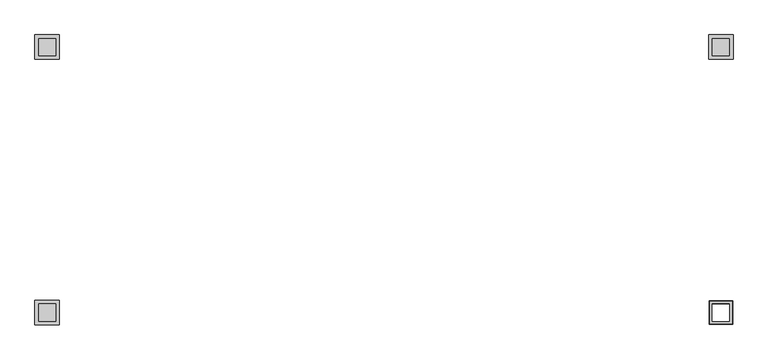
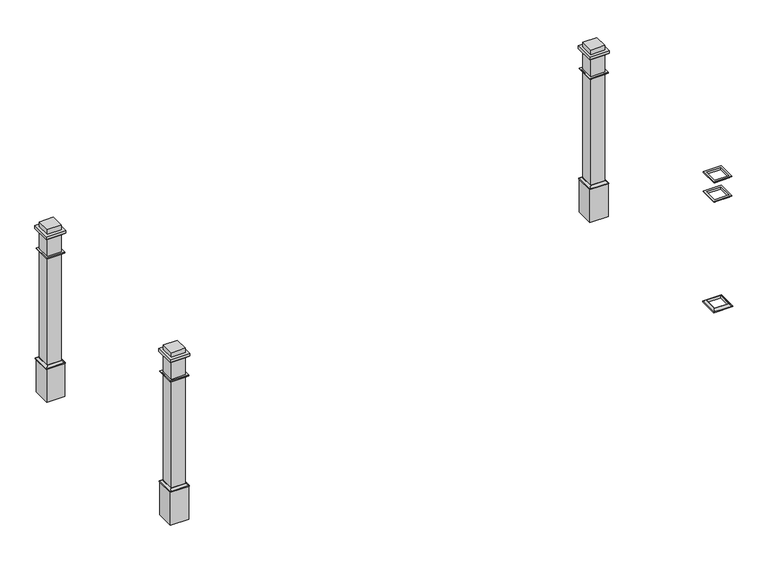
"""IFC4 building model written with IfcOpenShell, lengths in millimetres: railing geometry, Deco Type."""

from ifc_helpers import new_model, si_unit, frame, origin, place, context, project, spatial, polyline, ellipse_curve, outline, extrude, faceted_brep, source, transform, mapped, element, save
from ifc_brep_helpers import plane_surface, revolved_surface, advanced_brep


def railing_7e2956b8(model_context):
    return source(origin(), model_context, "Body", "SolidModel", [
        advanced_brep(
        [(-6672.1906648, -9796.5505549, 3149.6), (-6672.1906648, -9796.5505549, 3171.825), (-6551.5406648, -9796.5505549, 3171.825), (-6551.5406648, -9796.5505549, 3149.6), (-6694.4156648, -9818.7755549, 3155.95), (-6694.4156648, -9818.7755549, 3149.6), (-6529.3156648, -9818.7755549, 3149.6), (-6529.3156648, -9818.7755549, 3155.95), (-6678.5406648, -9802.9005549, 3171.825), (-6545.1906648, -9802.9005549, 3171.825), (-6551.5406648, -9675.9005549, 3171.825), (-6551.5406648, -9675.9005549, 3149.6), (-6529.3156648, -9653.6755549, 3149.6), (-6529.3156648, -9653.6755549, 3155.95), (-6545.1906648, -9669.5505549, 3171.825), (-6672.1906648, -9675.9005549, 3171.825), (-6672.1906648, -9675.9005549, 3149.6), (-6694.4156648, -9653.6755549, 3149.6), (-6694.4156648, -9653.6755549, 3155.95), (-6678.5406648, -9669.5505549, 3171.825)],
        [
            (0, 1),
            (1, 2),
            (2, 3),
            (3, 0),
            (4, 5),
            (5, 6),
            (6, 7),
            (7, 4),
            (8, 4, ellipse_curve(frame((-6694.4156648, -9818.7755549, 3171.825), z_axis=(-0.7071067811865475, 0.7071067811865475, 0.0), x_axis=(0.7071067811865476, 0.7071067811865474, 0.0)), 22.4506403, 15.875)),
            (7, 9, ellipse_curve(frame((-6529.3156648, -9818.7755549, 3171.825), z_axis=(0.7071067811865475, 0.7071067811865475, 0.0), x_axis=(0.7071067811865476, -0.7071067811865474, 0.0)), 22.4506403, 15.875)),
            (9, 8),
            (2, 10),
            (10, 11),
            (11, 3),
            (6, 12),
            (12, 13),
            (13, 7),
            (13, 14, ellipse_curve(frame((-6529.3156648, -9653.6755549, 3171.825), z_axis=(-0.7071067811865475, 0.7071067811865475, 0.0), x_axis=(0.7071067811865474, 0.7071067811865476, 0.0)), 22.4506403, 15.875)),
            (14, 9),
            (10, 15),
            (15, 16),
            (16, 11),
            (12, 17),
            (17, 18),
            (18, 13),
            (18, 19, ellipse_curve(frame((-6694.4156648, -9653.6755549, 3171.825), z_axis=(-0.7071067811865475, -0.7071067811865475, 0.0), x_axis=(-0.7071067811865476, 0.7071067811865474, 0.0)), 22.4506403, 15.875)),
            (19, 14),
            (15, 1),
            (0, 16),
            (5, 17),
            (4, 18),
            (8, 19),
        ],
        [
            plane_surface(frame((-6672.1906648, -9796.5505549, 3171.825), z_axis=(0.0, 1.0, 0.0), x_axis=(1.0, 0.0, 0.0))),
            plane_surface(frame((-6694.4156648, -9818.7755549, 3149.6), z_axis=(0.0, -1.0, 0.0), x_axis=(1.0, 0.0, 0.0))),
            revolved_surface(polyline([(-6513.44066480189, -9802.9005549, 3171.825), (-6710.29066479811, -9802.9005549, 3171.825)]), (-6672.1906648, -9818.7755549, 3171.825), (1.0, 0.0, 0.0)),
            plane_surface(frame((-6551.5406648, -9796.5505549, 3171.825), z_axis=(-1.0, 0.0, 0.0), x_axis=(0.0, 1.0, 0.0))),
            plane_surface(frame((-6529.3156648, -9818.7755549, 3149.6), z_axis=(1.0, 0.0, 0.0), x_axis=(0.0, 1.0, 0.0))),
            revolved_surface(polyline([(-6545.1906648, -9637.80055490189, 3171.825), (-6545.1906648, -9834.65055489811, 3171.825)]), (-6529.3156648, -9796.5505549, 3171.825), (0.0, 1.0, 0.0)),
            plane_surface(frame((-6551.5406648, -9675.9005549, 3171.825), z_axis=(0.0, -1.0, 0.0), x_axis=(-1.0, 0.0, 0.0))),
            plane_surface(frame((-6529.3156648, -9653.6755549, 3149.6), z_axis=(0.0, 1.0, 0.0), x_axis=(-1.0, 0.0, 0.0))),
            revolved_surface(polyline([(-6710.29066479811, -9669.5505549, 3171.825), (-6513.44066480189, -9669.5505549, 3171.825)]), (-6551.5406648, -9653.6755549, 3171.825), (-1.0, 0.0, 0.0)),
            plane_surface(frame((-6672.1906648, -9675.9005549, 3171.825), z_axis=(1.0, 0.0, 0.0), x_axis=(0.0, -1.0, 0.0))),
            plane_surface(frame((-6672.1906648, -9675.9005549, 3149.6), z_axis=(0.0, 0.0, -1.0), x_axis=(0.0, -1.0, 0.0))),
            plane_surface(frame((-6694.4156648, -9653.6755549, 3149.6), z_axis=(-1.0, 0.0, 0.0), x_axis=(0.0, -1.0, 0.0))),
            revolved_surface(polyline([(-6678.5406648, -9834.65055489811, 3171.825), (-6678.5406648, -9637.80055490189, 3171.825)]), (-6694.4156648, -9675.9005549, 3171.825), (0.0, -1.0, 0.0)),
            plane_surface(frame((-6678.5406648, -9669.5505549, 3171.825), z_axis=(0.0, 0.0, 1.0), x_axis=(0.0, -1.0, 0.0))),
        ],
        [
            (0, [[1, 2, 3, 4]]),
            (1, [[5, 6, 7, 8]]),
            (2, [[9, -8, 10, 11]]),
            (3, [[-3, 12, 13, 14]]),
            (4, [[-7, 15, 16, 17]]),
            (5, [[-10, -17, 18, 19]]),
            (6, [[-13, 20, 21, 22]]),
            (7, [[-16, 23, 24, 25]]),
            (8, [[-18, -25, 26, 27]]),
            (9, [[-21, 28, -1, 29]]),
            (10, [[30, -23, -15, -6], [-14, -22, -29, -4]]),
            (11, [[-24, -30, -5, 31]]),
            (12, [[-26, -31, -9, 32]]),
            (13, [[-19, -27, -32, -11], [-28, -20, -12, -2]]),
        ],
    ),
        advanced_brep(
        [(-6672.1906648, -9796.5505549, 4156.075), (-6672.1906648, -9796.5505549, 4175.125), (-6551.5406648, -9796.5505549, 4175.125), (-6551.5406648, -9796.5505549, 4156.075), (-6691.2406648, -9815.6005549, 4168.775), (-6678.5406648, -9802.9005549, 4156.075), (-6545.1906648, -9802.9005549, 4156.075), (-6532.4906648, -9815.6005549, 4168.775), (-6691.2406648, -9815.6005549, 4175.125), (-6532.4906648, -9815.6005549, 4175.125), (-6551.5406648, -9675.9005549, 4175.125), (-6551.5406648, -9675.9005549, 4156.075), (-6545.1906648, -9669.5505549, 4156.075), (-6532.4906648, -9656.8505549, 4168.775), (-6532.4906648, -9656.8505549, 4175.125), (-6672.1906648, -9675.9005549, 4175.125), (-6672.1906648, -9675.9005549, 4156.075), (-6678.5406648, -9669.5505549, 4156.075), (-6691.2406648, -9656.8505549, 4168.775), (-6691.2406648, -9656.8505549, 4175.125)],
        [
            (0, 1),
            (1, 2),
            (2, 3),
            (3, 0),
            (4, 5, ellipse_curve(frame((-6691.2406648, -9815.6005549, 4156.075), z_axis=(-0.7071067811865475, 0.7071067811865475, 0.0), x_axis=(0.7071067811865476, 0.7071067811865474, 0.0)), 17.9605122, 12.7)),
            (5, 6),
            (6, 7, ellipse_curve(frame((-6532.4906648, -9815.6005549, 4156.075), z_axis=(0.7071067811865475, 0.7071067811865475, 0.0), x_axis=(0.7071067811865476, -0.7071067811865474, 0.0)), 17.9605122, 12.7)),
            (7, 4),
            (8, 4),
            (7, 9),
            (9, 8),
            (2, 10),
            (10, 11),
            (11, 3),
            (6, 12),
            (12, 13, ellipse_curve(frame((-6532.4906648, -9656.8505549, 4156.075), z_axis=(-0.7071067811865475, 0.7071067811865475, 0.0), x_axis=(0.7071067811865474, 0.7071067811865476, 0.0)), 17.9605122, 12.7)),
            (13, 7),
            (13, 14),
            (14, 9),
            (10, 15),
            (15, 16),
            (16, 11),
            (12, 17),
            (17, 18, ellipse_curve(frame((-6691.2406648, -9656.8505549, 4156.075), z_axis=(-0.7071067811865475, -0.7071067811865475, 0.0), x_axis=(-0.7071067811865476, 0.7071067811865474, 0.0)), 17.9605122, 12.7)),
            (18, 13),
            (18, 19),
            (19, 14),
            (19, 8),
            (1, 15),
            (0, 16),
            (5, 17),
            (4, 18),
        ],
        [
            plane_surface(frame((-6672.1906648, -9796.5505549, 4175.125), z_axis=(0.0, 1.0, 0.0), x_axis=(1.0, 0.0, 0.0))),
            revolved_surface(polyline([(-6519.790664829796, -9802.9005549, 4156.075), (-6703.9406647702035, -9802.9005549, 4156.075)]), (-6672.1906648, -9815.6005549, 4156.075), (1.0, 0.0, 0.0)),
            plane_surface(frame((-6691.2406648, -9815.6005549, 4168.775), z_axis=(0.0, -1.0, 0.0), x_axis=(1.0, 0.0, 0.0))),
            plane_surface(frame((-6551.5406648, -9796.5505549, 4175.125), z_axis=(-1.0, 0.0, 0.0), x_axis=(0.0, 1.0, 0.0))),
            revolved_surface(polyline([(-6545.1906647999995, -9644.150554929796, 4156.075), (-6545.1906647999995, -9828.300554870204, 4156.075)]), (-6532.4906648, -9796.5505549, 4156.075), (0.0, 1.0, 0.0)),
            plane_surface(frame((-6532.4906648, -9815.6005549, 4168.775), z_axis=(1.0, 0.0, 0.0), x_axis=(0.0, 1.0, 0.0))),
            plane_surface(frame((-6551.5406648, -9675.9005549, 4175.125), z_axis=(0.0, -1.0, 0.0), x_axis=(-1.0, 0.0, 0.0))),
            revolved_surface(polyline([(-6703.9406647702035, -9669.5505549, 4156.075), (-6519.790664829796, -9669.5505549, 4156.075)]), (-6551.5406648, -9656.8505549, 4156.075), (-1.0, 0.0, 0.0)),
            plane_surface(frame((-6532.4906648, -9656.8505549, 4168.775), z_axis=(0.0, 1.0, 0.0), x_axis=(-1.0, 0.0, 0.0))),
            plane_surface(frame((-6691.2406648, -9656.8505549, 4175.125), z_axis=(0.0, 0.0, 1.0), x_axis=(0.0, -1.0, 0.0))),
            plane_surface(frame((-6672.1906648, -9675.9005549, 4175.125), z_axis=(1.0, 0.0, 0.0), x_axis=(0.0, -1.0, 0.0))),
            plane_surface(frame((-6672.1906648, -9675.9005549, 4156.075), z_axis=(0.0, 0.0, -1.0), x_axis=(0.0, -1.0, 0.0))),
            revolved_surface(polyline([(-6678.5406648, -9828.300554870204, 4156.075), (-6678.5406648, -9644.150554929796, 4156.075)]), (-6691.2406648, -9675.9005549, 4156.075), (0.0, -1.0, 0.0)),
            plane_surface(frame((-6691.2406648, -9656.8505549, 4168.775), z_axis=(-1.0, 0.0, 0.0), x_axis=(0.0, -1.0, 0.0))),
        ],
        [
            (0, [[1, 2, 3, 4]]),
            (1, [[5, 6, 7, 8]]),
            (2, [[9, -8, 10, 11]]),
            (3, [[-3, 12, 13, 14]]),
            (4, [[-7, 15, 16, 17]]),
            (5, [[-10, -17, 18, 19]]),
            (6, [[-13, 20, 21, 22]]),
            (7, [[-16, 23, 24, 25]]),
            (8, [[-18, -25, 26, 27]]),
            (9, [[-19, -27, 28, -11], [29, -20, -12, -2]]),
            (10, [[-21, -29, -1, 30]]),
            (11, [[31, -23, -15, -6], [-14, -22, -30, -4]]),
            (12, [[-24, -31, -5, 32]]),
            (13, [[-26, -32, -9, -28]]),
        ],
    ),
        faceted_brep([(-6672.1906648, -9796.5505549, 4333.875), (-6672.1906648, -9796.5505549, 4352.925), (-6551.5406648, -9796.5505549, 4352.925), (-6551.5406648, -9796.5505549, 4333.875), (-6678.5406648, -9802.9005549, 4346.575), (-6678.5406648, -9802.9005549, 4333.875), (-6545.1906648, -9802.9005549, 4333.875), (-6545.1906648, -9802.9005549, 4346.575), (-6691.2406648, -9815.6005549, 4352.925), (-6691.2406648, -9815.6005549, 4346.575), (-6532.4906648, -9815.6005549, 4346.575), (-6532.4906648, -9815.6005549, 4352.925), (-6551.5406648, -9675.9005549, 4352.925), (-6551.5406648, -9675.9005549, 4333.875), (-6545.1906648, -9669.5505549, 4333.875), (-6545.1906648, -9669.5505549, 4346.575), (-6532.4906648, -9656.8505549, 4346.575), (-6532.4906648, -9656.8505549, 4352.925), (-6672.1906648, -9675.9005549, 4352.925), (-6672.1906648, -9675.9005549, 4333.875), (-6678.5406648, -9669.5505549, 4333.875), (-6678.5406648, -9669.5505549, 4346.575), (-6691.2406648, -9656.8505549, 4346.575), (-6691.2406648, -9656.8505549, 4352.925)], [[[0, 1, 2, 3]], [[4, 5, 6, 7]], [[8, 9, 10, 11]], [[3, 2, 12, 13]], [[7, 6, 14, 15]], [[11, 10, 16, 17]], [[13, 12, 18, 19]], [[15, 14, 20, 21]], [[17, 16, 22, 23]], [[19, 18, 1, 0]], [[5, 20, 14, 6], [3, 13, 19, 0]], [[21, 20, 5, 4]], [[9, 22, 16, 10], [7, 15, 21, 4]], [[23, 22, 9, 8]], [[11, 17, 23, 8], [1, 18, 12, 2]]]),
        extrude(outline(polyline([(-11275.1469148, -9656.8505549), (-11275.1469148, -9815.6005549), (-11433.8969148, -9815.6005549), (-11433.8969148, -9656.8505549), (-11275.1469148, -9656.8505549)])), frame((0.0, 0.0, 2844.8), z_axis=(0.0, 0.0, 1.0), x_axis=(1.0, 0.0, 0.0)), (0.0, 0.0, 1.0), 304.8),
        extrude(outline(polyline([(-11294.1969148, -9675.9005549), (-11294.1969148, -9796.5505549), (-11414.8469148, -9796.5505549), (-11414.8469148, -9675.9005549), (-11294.1969148, -9675.9005549)])), frame((0.0, 0.0, 3149.6), z_axis=(0.0, 0.0, 1.0), x_axis=(1.0, 0.0, 0.0)), (0.0, 0.0, 1.0), 1270.0),
        extrude(outline(polyline([(-11440.2469148, -9650.5005549), (-11268.7969148, -9650.5005549), (-11268.7969148, -9821.9505549), (-11440.2469148, -9821.9505549), (-11440.2469148, -9650.5005549)]), holes=[polyline([(-11414.8469148, -9796.5505549), (-11294.1969148, -9796.5505549), (-11294.1969148, -9675.9005549), (-11414.8469148, -9675.9005549), (-11414.8469148, -9796.5505549)])]), frame((0.0, 0.0, 4352.925), z_axis=(0.0, 0.0, 1.0), x_axis=(1.0, 0.0, 0.0)), (0.0, 0.0, 1.0), 25.4),
        advanced_brep(
        [(-11414.8469148, -9675.9005549, 3149.6), (-11414.8469148, -9675.9005549, 3171.825), (-11414.8469148, -9796.5505549, 3171.825), (-11414.8469148, -9796.5505549, 3149.6), (-11437.0719148, -9653.6755549, 3155.95), (-11437.0719148, -9653.6755549, 3149.6), (-11437.0719148, -9818.7755549, 3149.6), (-11437.0719148, -9818.7755549, 3155.95), (-11421.1969148, -9669.5505549, 3171.825), (-11421.1969148, -9802.9005549, 3171.825), (-11294.1969148, -9796.5505549, 3171.825), (-11294.1969148, -9796.5505549, 3149.6), (-11271.9719148, -9818.7755549, 3149.6), (-11271.9719148, -9818.7755549, 3155.95), (-11287.8469148, -9802.9005549, 3171.825), (-11294.1969148, -9675.9005549, 3171.825), (-11294.1969148, -9675.9005549, 3149.6), (-11271.9719148, -9653.6755549, 3149.6), (-11271.9719148, -9653.6755549, 3155.95), (-11287.8469148, -9669.5505549, 3171.825)],
        [
            (0, 1),
            (1, 2),
            (2, 3),
            (3, 0),
            (4, 5),
            (5, 6),
            (6, 7),
            (7, 4),
            (8, 4, ellipse_curve(frame((-11437.0719148, -9653.6755549, 3171.825), z_axis=(0.7071067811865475, 0.7071067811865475, 0.0), x_axis=(0.7071067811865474, -0.7071067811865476, 0.0)), 22.4506403, 15.875)),
            (7, 9, ellipse_curve(frame((-11437.0719148, -9818.7755549, 3171.825), z_axis=(0.7071067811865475, -0.7071067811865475, 0.0), x_axis=(-0.7071067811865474, -0.7071067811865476, 0.0)), 22.4506403, 15.875)),
            (9, 8),
            (2, 10),
            (10, 11),
            (11, 3),
            (6, 12),
            (12, 13),
            (13, 7),
            (13, 14, ellipse_curve(frame((-11271.9719148, -9818.7755549, 3171.825), z_axis=(0.7071067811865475, 0.7071067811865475, 0.0), x_axis=(0.7071067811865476, -0.7071067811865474, 0.0)), 22.4506403, 15.875)),
            (14, 9),
            (10, 15),
            (15, 16),
            (16, 11),
            (12, 17),
            (17, 18),
            (18, 13),
            (18, 19, ellipse_curve(frame((-11271.9719148, -9653.6755549, 3171.825), z_axis=(-0.7071067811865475, 0.7071067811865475, 0.0), x_axis=(0.7071067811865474, 0.7071067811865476, 0.0)), 22.4506403, 15.875)),
            (19, 14),
            (15, 1),
            (0, 16),
            (5, 17),
            (4, 18),
            (8, 19),
        ],
        [
            plane_surface(frame((-11414.8469148, -9675.9005549, 3171.825), z_axis=(1.0, 0.0, 0.0), x_axis=(0.0, -1.0, 0.0))),
            plane_surface(frame((-11437.0719148, -9653.6755549, 3149.6), z_axis=(-1.0, 0.0, 0.0), x_axis=(0.0, -1.0, 0.0))),
            revolved_surface(polyline([(-11421.1969148, -9834.65055489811, 3171.825), (-11421.1969148, -9637.80055490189, 3171.825)]), (-11437.0719148, -9675.9005549, 3171.825), (0.0, -1.0, 0.0)),
            plane_surface(frame((-11414.8469148, -9796.5505549, 3171.825), z_axis=(0.0, 1.0, 0.0), x_axis=(1.0, 0.0, 0.0))),
            plane_surface(frame((-11437.0719148, -9818.7755549, 3149.6), z_axis=(0.0, -1.0, 0.0), x_axis=(1.0, 0.0, 0.0))),
            revolved_surface(polyline([(-11256.09691480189, -9802.9005549, 3171.825), (-11452.94691479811, -9802.9005549, 3171.825)]), (-11414.8469148, -9818.7755549, 3171.825), (1.0, 0.0, 0.0)),
            plane_surface(frame((-11294.1969148, -9796.5505549, 3171.825), z_axis=(-1.0, 0.0, 0.0), x_axis=(0.0, 1.0, 0.0))),
            plane_surface(frame((-11271.9719148, -9818.7755549, 3149.6), z_axis=(1.0, 0.0, 0.0), x_axis=(0.0, 1.0, 0.0))),
            revolved_surface(polyline([(-11287.8469148, -9637.80055490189, 3171.825), (-11287.8469148, -9834.65055489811, 3171.825)]), (-11271.9719148, -9796.5505549, 3171.825), (0.0, 1.0, 0.0)),
            plane_surface(frame((-11294.1969148, -9675.9005549, 3171.825), z_axis=(0.0, -1.0, 0.0), x_axis=(-1.0, 0.0, 0.0))),
            plane_surface(frame((-11294.1969148, -9675.9005549, 3149.6), z_axis=(0.0, 0.0, -1.0), x_axis=(-1.0, 0.0, 0.0))),
            plane_surface(frame((-11271.9719148, -9653.6755549, 3149.6), z_axis=(0.0, 1.0, 0.0), x_axis=(-1.0, 0.0, 0.0))),
            revolved_surface(polyline([(-11452.94691479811, -9669.5505549, 3171.825), (-11256.09691480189, -9669.5505549, 3171.825)]), (-11294.1969148, -9653.6755549, 3171.825), (-1.0, 0.0, 0.0)),
            plane_surface(frame((-11287.8469148, -9669.5505549, 3171.825), z_axis=(0.0, 0.0, 1.0), x_axis=(-1.0, 0.0, 0.0))),
        ],
        [
            (0, [[1, 2, 3, 4]]),
            (1, [[5, 6, 7, 8]]),
            (2, [[9, -8, 10, 11]]),
            (3, [[-3, 12, 13, 14]]),
            (4, [[-7, 15, 16, 17]]),
            (5, [[-10, -17, 18, 19]]),
            (6, [[-13, 20, 21, 22]]),
            (7, [[-16, 23, 24, 25]]),
            (8, [[-18, -25, 26, 27]]),
            (9, [[-21, 28, -1, 29]]),
            (10, [[30, -23, -15, -6], [-14, -22, -29, -4]]),
            (11, [[-24, -30, -5, 31]]),
            (12, [[-26, -31, -9, 32]]),
            (13, [[-19, -27, -32, -11], [-28, -20, -12, -2]]),
        ],
    ),
        advanced_brep(
        [(-11414.8469148, -9675.9005549, 4156.075), (-11414.8469148, -9675.9005549, 4175.125), (-11414.8469148, -9796.5505549, 4175.125), (-11414.8469148, -9796.5505549, 4156.075), (-11433.8969148, -9656.8505549, 4168.775), (-11421.1969148, -9669.5505549, 4156.075), (-11421.1969148, -9802.9005549, 4156.075), (-11433.8969148, -9815.6005549, 4168.775), (-11433.8969148, -9656.8505549, 4175.125), (-11433.8969148, -9815.6005549, 4175.125), (-11294.1969148, -9796.5505549, 4175.125), (-11294.1969148, -9796.5505549, 4156.075), (-11287.8469148, -9802.9005549, 4156.075), (-11275.1469148, -9815.6005549, 4168.775), (-11275.1469148, -9815.6005549, 4175.125), (-11294.1969148, -9675.9005549, 4175.125), (-11294.1969148, -9675.9005549, 4156.075), (-11287.8469148, -9669.5505549, 4156.075), (-11275.1469148, -9656.8505549, 4168.775), (-11275.1469148, -9656.8505549, 4175.125)],
        [
            (0, 1),
            (1, 2),
            (2, 3),
            (3, 0),
            (4, 5, ellipse_curve(frame((-11433.8969148, -9656.8505549, 4156.075), z_axis=(0.7071067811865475, 0.7071067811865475, 0.0), x_axis=(0.7071067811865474, -0.7071067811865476, 0.0)), 17.9605122, 12.7)),
            (5, 6),
            (6, 7, ellipse_curve(frame((-11433.8969148, -9815.6005549, 4156.075), z_axis=(0.7071067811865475, -0.7071067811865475, 0.0), x_axis=(-0.7071067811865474, -0.7071067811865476, 0.0)), 17.9605122, 12.7)),
            (7, 4),
            (8, 4),
            (7, 9),
            (9, 8),
            (2, 10),
            (10, 11),
            (11, 3),
            (6, 12),
            (12, 13, ellipse_curve(frame((-11275.1469148, -9815.6005549, 4156.075), z_axis=(0.7071067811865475, 0.7071067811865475, 0.0), x_axis=(0.7071067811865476, -0.7071067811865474, 0.0)), 17.9605122, 12.7)),
            (13, 7),
            (13, 14),
            (14, 9),
            (10, 15),
            (15, 16),
            (16, 11),
            (12, 17),
            (17, 18, ellipse_curve(frame((-11275.1469148, -9656.8505549, 4156.075), z_axis=(-0.7071067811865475, 0.7071067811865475, 0.0), x_axis=(0.7071067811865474, 0.7071067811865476, 0.0)), 17.9605122, 12.7)),
            (18, 13),
            (18, 19),
            (19, 14),
            (19, 8),
            (1, 15),
            (0, 16),
            (5, 17),
            (4, 18),
        ],
        [
            plane_surface(frame((-11414.8469148, -9675.9005549, 4175.125), z_axis=(1.0, 0.0, 0.0), x_axis=(0.0, -1.0, 0.0))),
            revolved_surface(polyline([(-11421.196914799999, -9828.300554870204, 4156.075), (-11421.196914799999, -9644.150554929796, 4156.075)]), (-11433.8969148, -9675.9005549, 4156.075), (0.0, -1.0, 0.0)),
            plane_surface(frame((-11433.8969148, -9656.8505549, 4168.775), z_axis=(-1.0, 0.0, 0.0), x_axis=(0.0, -1.0, 0.0))),
            plane_surface(frame((-11414.8469148, -9796.5505549, 4175.125), z_axis=(0.0, 1.0, 0.0), x_axis=(1.0, 0.0, 0.0))),
            revolved_surface(polyline([(-11262.446914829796, -9802.9005549, 4156.075), (-11446.596914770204, -9802.9005549, 4156.075)]), (-11414.8469148, -9815.6005549, 4156.075), (1.0, 0.0, 0.0)),
            plane_surface(frame((-11433.8969148, -9815.6005549, 4168.775), z_axis=(0.0, -1.0, 0.0), x_axis=(1.0, 0.0, 0.0))),
            plane_surface(frame((-11294.1969148, -9796.5505549, 4175.125), z_axis=(-1.0, 0.0, 0.0), x_axis=(0.0, 1.0, 0.0))),
            revolved_surface(polyline([(-11287.8469148, -9644.150554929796, 4156.075), (-11287.8469148, -9828.300554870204, 4156.075)]), (-11275.1469148, -9796.5505549, 4156.075), (0.0, 1.0, 0.0)),
            plane_surface(frame((-11275.1469148, -9815.6005549, 4168.775), z_axis=(1.0, 0.0, 0.0), x_axis=(0.0, 1.0, 0.0))),
            plane_surface(frame((-11275.1469148, -9656.8505549, 4175.125), z_axis=(0.0, 0.0, 1.0), x_axis=(-1.0, 0.0, 0.0))),
            plane_surface(frame((-11294.1969148, -9675.9005549, 4175.125), z_axis=(0.0, -1.0, 0.0), x_axis=(-1.0, 0.0, 0.0))),
            plane_surface(frame((-11294.1969148, -9675.9005549, 4156.075), z_axis=(0.0, 0.0, -1.0), x_axis=(-1.0, 0.0, 0.0))),
            revolved_surface(polyline([(-11446.596914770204, -9669.5505549, 4156.075), (-11262.446914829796, -9669.5505549, 4156.075)]), (-11294.1969148, -9656.8505549, 4156.075), (-1.0, 0.0, 0.0)),
            plane_surface(frame((-11275.1469148, -9656.8505549, 4168.775), z_axis=(0.0, 1.0, 0.0), x_axis=(-1.0, 0.0, 0.0))),
        ],
        [
            (0, [[1, 2, 3, 4]]),
            (1, [[5, 6, 7, 8]]),
            (2, [[9, -8, 10, 11]]),
            (3, [[-3, 12, 13, 14]]),
            (4, [[-7, 15, 16, 17]]),
            (5, [[-10, -17, 18, 19]]),
            (6, [[-13, 20, 21, 22]]),
            (7, [[-16, 23, 24, 25]]),
            (8, [[-18, -25, 26, 27]]),
            (9, [[-19, -27, 28, -11], [29, -20, -12, -2]]),
            (10, [[-21, -29, -1, 30]]),
            (11, [[31, -23, -15, -6], [-14, -22, -30, -4]]),
            (12, [[-24, -31, -5, 32]]),
            (13, [[-26, -32, -9, -28]]),
        ],
    ),
        faceted_brep([(-11414.8469148, -9675.9005549, 4333.875), (-11414.8469148, -9675.9005549, 4352.925), (-11414.8469148, -9796.5505549, 4352.925), (-11414.8469148, -9796.5505549, 4333.875), (-11421.1969148, -9669.5505549, 4346.575), (-11421.1969148, -9669.5505549, 4333.875), (-11421.1969148, -9802.9005549, 4333.875), (-11421.1969148, -9802.9005549, 4346.575), (-11433.8969148, -9656.8505549, 4352.925), (-11433.8969148, -9656.8505549, 4346.575), (-11433.8969148, -9815.6005549, 4346.575), (-11433.8969148, -9815.6005549, 4352.925), (-11294.1969148, -9796.5505549, 4352.925), (-11294.1969148, -9796.5505549, 4333.875), (-11287.8469148, -9802.9005549, 4333.875), (-11287.8469148, -9802.9005549, 4346.575), (-11275.1469148, -9815.6005549, 4346.575), (-11275.1469148, -9815.6005549, 4352.925), (-11294.1969148, -9675.9005549, 4352.925), (-11294.1969148, -9675.9005549, 4333.875), (-11287.8469148, -9669.5505549, 4333.875), (-11287.8469148, -9669.5505549, 4346.575), (-11275.1469148, -9656.8505549, 4346.575), (-11275.1469148, -9656.8505549, 4352.925)], [[[0, 1, 2, 3]], [[4, 5, 6, 7]], [[8, 9, 10, 11]], [[3, 2, 12, 13]], [[7, 6, 14, 15]], [[11, 10, 16, 17]], [[13, 12, 18, 19]], [[15, 14, 20, 21]], [[17, 16, 22, 23]], [[19, 18, 1, 0]], [[5, 20, 14, 6], [3, 13, 19, 0]], [[21, 20, 5, 4]], [[9, 22, 16, 10], [7, 15, 21, 4]], [[23, 22, 9, 8]], [[11, 17, 23, 8], [1, 18, 12, 2]]]),
        extrude(outline(polyline([(-6691.2406648, -7943.5411799), (-6691.2406648, -7784.7911799), (-6532.4906648, -7784.7911799), (-6532.4906648, -7943.5411799), (-6691.2406648, -7943.5411799)])), frame((0.0, 0.0, 2844.8), z_axis=(0.0, 0.0, 1.0), x_axis=(1.0, 0.0, 0.0)), (0.0, 0.0, 1.0), 304.8),
        extrude(outline(polyline([(-6672.1906648, -7924.4911799), (-6672.1906648, -7803.8411799), (-6551.5406648, -7803.8411799), (-6551.5406648, -7924.4911799), (-6672.1906648, -7924.4911799)])), frame((0.0, 0.0, 3149.6), z_axis=(0.0, 0.0, 1.0), x_axis=(1.0, 0.0, 0.0)), (0.0, 0.0, 1.0), 1270.0),
        extrude(outline(polyline([(-6526.1406648, -7949.8911799), (-6697.5906648, -7949.8911799), (-6697.5906648, -7778.4411799), (-6526.1406648, -7778.4411799), (-6526.1406648, -7949.8911799)]), holes=[polyline([(-6551.5406648, -7803.8411799), (-6672.1906648, -7803.8411799), (-6672.1906648, -7924.4911799), (-6551.5406648, -7924.4911799), (-6551.5406648, -7803.8411799)])]), frame((0.0, 0.0, 4352.925), z_axis=(0.0, 0.0, 1.0), x_axis=(1.0, 0.0, 0.0)), (0.0, 0.0, 1.0), 25.4),
        advanced_brep(
        [(-6551.5406648, -7924.4911799, 3149.6), (-6551.5406648, -7924.4911799, 3171.825), (-6551.5406648, -7803.8411799, 3171.825), (-6551.5406648, -7803.8411799, 3149.6), (-6529.3156648, -7946.7161799, 3155.95), (-6529.3156648, -7946.7161799, 3149.6), (-6529.3156648, -7781.6161799, 3149.6), (-6529.3156648, -7781.6161799, 3155.95), (-6545.1906648, -7930.8411799, 3171.825), (-6545.1906648, -7797.4911799, 3171.825), (-6672.1906648, -7803.8411799, 3171.825), (-6672.1906648, -7803.8411799, 3149.6), (-6694.4156648, -7781.6161799, 3149.6), (-6694.4156648, -7781.6161799, 3155.95), (-6678.5406648, -7797.4911799, 3171.825), (-6672.1906648, -7924.4911799, 3171.825), (-6672.1906648, -7924.4911799, 3149.6), (-6694.4156648, -7946.7161799, 3149.6), (-6694.4156648, -7946.7161799, 3155.95), (-6678.5406648, -7930.8411799, 3171.825)],
        [
            (0, 1),
            (1, 2),
            (2, 3),
            (3, 0),
            (4, 5),
            (5, 6),
            (6, 7),
            (7, 4),
            (8, 4, ellipse_curve(frame((-6529.3156648, -7946.7161799, 3171.825), z_axis=(-0.7071067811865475, -0.7071067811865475, 0.0), x_axis=(-0.7071067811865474, 0.7071067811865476, 0.0)), 22.4506403, 15.875)),
            (7, 9, ellipse_curve(frame((-6529.3156648, -7781.6161799, 3171.825), z_axis=(-0.7071067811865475, 0.7071067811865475, 0.0), x_axis=(0.7071067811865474, 0.7071067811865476, 0.0)), 22.4506403, 15.875)),
            (9, 8),
            (2, 10),
            (10, 11),
            (11, 3),
            (6, 12),
            (12, 13),
            (13, 7),
            (13, 14, ellipse_curve(frame((-6694.4156648, -7781.6161799, 3171.825), z_axis=(-0.7071067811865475, -0.7071067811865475, 0.0), x_axis=(-0.7071067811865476, 0.7071067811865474, 0.0)), 22.4506403, 15.875)),
            (14, 9),
            (10, 15),
            (15, 16),
            (16, 11),
            (12, 17),
            (17, 18),
            (18, 13),
            (18, 19, ellipse_curve(frame((-6694.4156648, -7946.7161799, 3171.825), z_axis=(0.7071067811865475, -0.7071067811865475, 0.0), x_axis=(-0.7071067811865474, -0.7071067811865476, 0.0)), 22.4506403, 15.875)),
            (19, 14),
            (15, 1),
            (0, 16),
            (5, 17),
            (4, 18),
            (8, 19),
        ],
        [
            plane_surface(frame((-6551.5406648, -7924.4911799, 3171.825), z_axis=(-1.0, 0.0, 0.0), x_axis=(0.0, 1.0, 0.0))),
            plane_surface(frame((-6529.3156648, -7946.7161799, 3149.6), z_axis=(1.0, 0.0, 0.0), x_axis=(0.0, 1.0, 0.0))),
            revolved_surface(polyline([(-6545.1906648, -7765.74117990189, 3171.825), (-6545.1906648, -7962.59117989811, 3171.825)]), (-6529.3156648, -7924.4911799, 3171.825), (0.0, 1.0, 0.0)),
            plane_surface(frame((-6551.5406648, -7803.8411799, 3171.825), z_axis=(0.0, -1.0, 0.0), x_axis=(-1.0, 0.0, 0.0))),
            plane_surface(frame((-6529.3156648, -7781.6161799, 3149.6), z_axis=(0.0, 1.0, 0.0), x_axis=(-1.0, 0.0, 0.0))),
            revolved_surface(polyline([(-6710.29066479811, -7797.4911799, 3171.825), (-6513.44066480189, -7797.4911799, 3171.825)]), (-6551.5406648, -7781.6161799, 3171.825), (-1.0, 0.0, 0.0)),
            plane_surface(frame((-6672.1906648, -7803.8411799, 3171.825), z_axis=(1.0, 0.0, 0.0), x_axis=(0.0, -1.0, 0.0))),
            plane_surface(frame((-6694.4156648, -7781.6161799, 3149.6), z_axis=(-1.0, 0.0, 0.0), x_axis=(0.0, -1.0, 0.0))),
            revolved_surface(polyline([(-6678.5406648, -7962.59117989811, 3171.825), (-6678.5406648, -7765.74117990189, 3171.825)]), (-6694.4156648, -7803.8411799, 3171.825), (0.0, -1.0, 0.0)),
            plane_surface(frame((-6672.1906648, -7924.4911799, 3171.825), z_axis=(0.0, 1.0, 0.0), x_axis=(1.0, 0.0, 0.0))),
            plane_surface(frame((-6672.1906648, -7924.4911799, 3149.6), z_axis=(0.0, 0.0, -1.0), x_axis=(1.0, 0.0, 0.0))),
            plane_surface(frame((-6694.4156648, -7946.7161799, 3149.6), z_axis=(0.0, -1.0, 0.0), x_axis=(1.0, 0.0, 0.0))),
            revolved_surface(polyline([(-6513.44066480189, -7930.8411799, 3171.825), (-6710.29066479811, -7930.8411799, 3171.825)]), (-6672.1906648, -7946.7161799, 3171.825), (1.0, 0.0, 0.0)),
            plane_surface(frame((-6678.5406648, -7930.8411799, 3171.825), z_axis=(0.0, 0.0, 1.0), x_axis=(1.0, 0.0, 0.0))),
        ],
        [
            (0, [[1, 2, 3, 4]]),
            (1, [[5, 6, 7, 8]]),
            (2, [[9, -8, 10, 11]]),
            (3, [[-3, 12, 13, 14]]),
            (4, [[-7, 15, 16, 17]]),
            (5, [[-10, -17, 18, 19]]),
            (6, [[-13, 20, 21, 22]]),
            (7, [[-16, 23, 24, 25]]),
            (8, [[-18, -25, 26, 27]]),
            (9, [[-21, 28, -1, 29]]),
            (10, [[30, -23, -15, -6], [-14, -22, -29, -4]]),
            (11, [[-24, -30, -5, 31]]),
            (12, [[-26, -31, -9, 32]]),
            (13, [[-19, -27, -32, -11], [-28, -20, -12, -2]]),
        ],
    ),
        advanced_brep(
        [(-6551.5406648, -7924.4911799, 4156.075), (-6551.5406648, -7924.4911799, 4175.125), (-6551.5406648, -7803.8411799, 4175.125), (-6551.5406648, -7803.8411799, 4156.075), (-6532.4906648, -7943.5411799, 4168.775), (-6545.1906648, -7930.8411799, 4156.075), (-6545.1906648, -7797.4911799, 4156.075), (-6532.4906648, -7784.7911799, 4168.775), (-6532.4906648, -7943.5411799, 4175.125), (-6532.4906648, -7784.7911799, 4175.125), (-6672.1906648, -7803.8411799, 4175.125), (-6672.1906648, -7803.8411799, 4156.075), (-6678.5406648, -7797.4911799, 4156.075), (-6691.2406648, -7784.7911799, 4168.775), (-6691.2406648, -7784.7911799, 4175.125), (-6672.1906648, -7924.4911799, 4175.125), (-6672.1906648, -7924.4911799, 4156.075), (-6678.5406648, -7930.8411799, 4156.075), (-6691.2406648, -7943.5411799, 4168.775), (-6691.2406648, -7943.5411799, 4175.125)],
        [
            (0, 1),
            (1, 2),
            (2, 3),
            (3, 0),
            (4, 5, ellipse_curve(frame((-6532.4906648, -7943.5411799, 4156.075), z_axis=(-0.7071067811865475, -0.7071067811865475, 0.0), x_axis=(-0.7071067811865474, 0.7071067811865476, 0.0)), 17.9605122, 12.7)),
            (5, 6),
            (6, 7, ellipse_curve(frame((-6532.4906648, -7784.7911799, 4156.075), z_axis=(-0.7071067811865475, 0.7071067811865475, 0.0), x_axis=(0.7071067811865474, 0.7071067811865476, 0.0)), 17.9605122, 12.7)),
            (7, 4),
            (8, 4),
            (7, 9),
            (9, 8),
            (2, 10),
            (10, 11),
            (11, 3),
            (6, 12),
            (12, 13, ellipse_curve(frame((-6691.2406648, -7784.7911799, 4156.075), z_axis=(-0.7071067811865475, -0.7071067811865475, 0.0), x_axis=(-0.7071067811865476, 0.7071067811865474, 0.0)), 17.9605122, 12.7)),
            (13, 7),
            (13, 14),
            (14, 9),
            (10, 15),
            (15, 16),
            (16, 11),
            (12, 17),
            (17, 18, ellipse_curve(frame((-6691.2406648, -7943.5411799, 4156.075), z_axis=(0.7071067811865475, -0.7071067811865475, 0.0), x_axis=(-0.7071067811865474, -0.7071067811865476, 0.0)), 17.9605122, 12.7)),
            (18, 13),
            (18, 19),
            (19, 14),
            (19, 8),
            (1, 15),
            (0, 16),
            (5, 17),
            (4, 18),
        ],
        [
            plane_surface(frame((-6551.5406648, -7924.4911799, 4175.125), z_axis=(-1.0, 0.0, 0.0), x_axis=(0.0, 1.0, 0.0))),
            revolved_surface(polyline([(-6545.1906647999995, -7772.091179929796, 4156.075), (-6545.1906647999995, -7956.241179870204, 4156.075)]), (-6532.4906648, -7924.4911799, 4156.075), (0.0, 1.0, 0.0)),
            plane_surface(frame((-6532.4906648, -7943.5411799, 4168.775), z_axis=(1.0, 0.0, 0.0), x_axis=(0.0, 1.0, 0.0))),
            plane_surface(frame((-6551.5406648, -7803.8411799, 4175.125), z_axis=(0.0, -1.0, 0.0), x_axis=(-1.0, 0.0, 0.0))),
            revolved_surface(polyline([(-6703.9406647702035, -7797.4911799, 4156.075), (-6519.790664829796, -7797.4911799, 4156.075)]), (-6551.5406648, -7784.7911799, 4156.075), (-1.0, 0.0, 0.0)),
            plane_surface(frame((-6532.4906648, -7784.7911799, 4168.775), z_axis=(0.0, 1.0, 0.0), x_axis=(-1.0, 0.0, 0.0))),
            plane_surface(frame((-6672.1906648, -7803.8411799, 4175.125), z_axis=(1.0, 0.0, 0.0), x_axis=(0.0, -1.0, 0.0))),
            revolved_surface(polyline([(-6678.5406648, -7956.241179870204, 4156.075), (-6678.5406648, -7772.091179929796, 4156.075)]), (-6691.2406648, -7803.8411799, 4156.075), (0.0, -1.0, 0.0)),
            plane_surface(frame((-6691.2406648, -7784.7911799, 4168.775), z_axis=(-1.0, 0.0, 0.0), x_axis=(0.0, -1.0, 0.0))),
            plane_surface(frame((-6691.2406648, -7943.5411799, 4175.125), z_axis=(0.0, 0.0, 1.0), x_axis=(1.0, 0.0, 0.0))),
            plane_surface(frame((-6672.1906648, -7924.4911799, 4175.125), z_axis=(0.0, 1.0, 0.0), x_axis=(1.0, 0.0, 0.0))),
            plane_surface(frame((-6672.1906648, -7924.4911799, 4156.075), z_axis=(0.0, 0.0, -1.0), x_axis=(1.0, 0.0, 0.0))),
            revolved_surface(polyline([(-6519.790664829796, -7930.8411799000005, 4156.075), (-6703.9406647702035, -7930.8411799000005, 4156.075)]), (-6672.1906648, -7943.5411799, 4156.075), (1.0, 0.0, 0.0)),
            plane_surface(frame((-6691.2406648, -7943.5411799, 4168.775), z_axis=(0.0, -1.0, 0.0), x_axis=(1.0, 0.0, 0.0))),
        ],
        [
            (0, [[1, 2, 3, 4]]),
            (1, [[5, 6, 7, 8]]),
            (2, [[9, -8, 10, 11]]),
            (3, [[-3, 12, 13, 14]]),
            (4, [[-7, 15, 16, 17]]),
            (5, [[-10, -17, 18, 19]]),
            (6, [[-13, 20, 21, 22]]),
            (7, [[-16, 23, 24, 25]]),
            (8, [[-18, -25, 26, 27]]),
            (9, [[-19, -27, 28, -11], [29, -20, -12, -2]]),
            (10, [[-21, -29, -1, 30]]),
            (11, [[31, -23, -15, -6], [-14, -22, -30, -4]]),
            (12, [[-24, -31, -5, 32]]),
            (13, [[-26, -32, -9, -28]]),
        ],
    ),
        faceted_brep([(-6551.5406648, -7924.4911799, 4333.875), (-6551.5406648, -7924.4911799, 4352.925), (-6551.5406648, -7803.8411799, 4352.925), (-6551.5406648, -7803.8411799, 4333.875), (-6545.1906648, -7930.8411799, 4346.575), (-6545.1906648, -7930.8411799, 4333.875), (-6545.1906648, -7797.4911799, 4333.875), (-6545.1906648, -7797.4911799, 4346.575), (-6532.4906648, -7943.5411799, 4352.925), (-6532.4906648, -7943.5411799, 4346.575), (-6532.4906648, -7784.7911799, 4346.575), (-6532.4906648, -7784.7911799, 4352.925), (-6672.1906648, -7803.8411799, 4352.925), (-6672.1906648, -7803.8411799, 4333.875), (-6678.5406648, -7797.4911799, 4333.875), (-6678.5406648, -7797.4911799, 4346.575), (-6691.2406648, -7784.7911799, 4346.575), (-6691.2406648, -7784.7911799, 4352.925), (-6672.1906648, -7924.4911799, 4352.925), (-6672.1906648, -7924.4911799, 4333.875), (-6678.5406648, -7930.8411799, 4333.875), (-6678.5406648, -7930.8411799, 4346.575), (-6691.2406648, -7943.5411799, 4346.575), (-6691.2406648, -7943.5411799, 4352.925)], [[[0, 1, 2, 3]], [[4, 5, 6, 7]], [[8, 9, 10, 11]], [[3, 2, 12, 13]], [[7, 6, 14, 15]], [[11, 10, 16, 17]], [[13, 12, 18, 19]], [[15, 14, 20, 21]], [[17, 16, 22, 23]], [[19, 18, 1, 0]], [[5, 20, 14, 6], [3, 13, 19, 0]], [[21, 20, 5, 4]], [[9, 22, 16, 10], [7, 15, 21, 4]], [[23, 22, 9, 8]], [[11, 17, 23, 8], [1, 18, 12, 2]]]),
        extrude(outline(polyline([(-11275.1469148, -7784.7911799), (-11275.1469148, -7943.5411799), (-11433.8969148, -7943.5411799), (-11433.8969148, -7784.7911799), (-11275.1469148, -7784.7911799)])), frame((0.0, 0.0, 2844.8), z_axis=(0.0, 0.0, 1.0), x_axis=(1.0, 0.0, 0.0)), (0.0, 0.0, 1.0), 304.8),
        extrude(outline(polyline([(-11294.1969148, -7803.8411799), (-11294.1969148, -7924.4911799), (-11414.8469148, -7924.4911799), (-11414.8469148, -7803.8411799), (-11294.1969148, -7803.8411799)])), frame((0.0, 0.0, 3149.6), z_axis=(0.0, 0.0, 1.0), x_axis=(1.0, 0.0, 0.0)), (0.0, 0.0, 1.0), 1270.0),
        extrude(outline(polyline([(-11440.2469148, -7778.4411799), (-11268.7969148, -7778.4411799), (-11268.7969148, -7949.8911799), (-11440.2469148, -7949.8911799), (-11440.2469148, -7778.4411799)]), holes=[polyline([(-11414.8469148, -7924.4911799), (-11294.1969148, -7924.4911799), (-11294.1969148, -7803.8411799), (-11414.8469148, -7803.8411799), (-11414.8469148, -7924.4911799)])]), frame((0.0, 0.0, 4352.925), z_axis=(0.0, 0.0, 1.0), x_axis=(1.0, 0.0, 0.0)), (0.0, 0.0, 1.0), 25.4),
        advanced_brep(
        [(-11414.8469148, -7803.8411799, 3149.6), (-11414.8469148, -7803.8411799, 3171.825), (-11414.8469148, -7924.4911799, 3171.825), (-11414.8469148, -7924.4911799, 3149.6), (-11437.0719148, -7781.6161799, 3155.95), (-11437.0719148, -7781.6161799, 3149.6), (-11437.0719148, -7946.7161799, 3149.6), (-11437.0719148, -7946.7161799, 3155.95), (-11421.1969148, -7797.4911799, 3171.825), (-11421.1969148, -7930.8411799, 3171.825), (-11294.1969148, -7924.4911799, 3171.825), (-11294.1969148, -7924.4911799, 3149.6), (-11271.9719148, -7946.7161799, 3149.6), (-11271.9719148, -7946.7161799, 3155.95), (-11287.8469148, -7930.8411799, 3171.825), (-11294.1969148, -7803.8411799, 3171.825), (-11294.1969148, -7803.8411799, 3149.6), (-11271.9719148, -7781.6161799, 3149.6), (-11271.9719148, -7781.6161799, 3155.95), (-11287.8469148, -7797.4911799, 3171.825)],
        [
            (0, 1),
            (1, 2),
            (2, 3),
            (3, 0),
            (4, 5),
            (5, 6),
            (6, 7),
            (7, 4),
            (8, 4, ellipse_curve(frame((-11437.0719148, -7781.6161799, 3171.825), z_axis=(0.7071067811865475, 0.7071067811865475, 0.0), x_axis=(0.7071067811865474, -0.7071067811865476, 0.0)), 22.4506403, 15.875)),
            (7, 9, ellipse_curve(frame((-11437.0719148, -7946.7161799, 3171.825), z_axis=(0.7071067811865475, -0.7071067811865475, 0.0), x_axis=(-0.7071067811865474, -0.7071067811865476, 0.0)), 22.4506403, 15.875)),
            (9, 8),
            (2, 10),
            (10, 11),
            (11, 3),
            (6, 12),
            (12, 13),
            (13, 7),
            (13, 14, ellipse_curve(frame((-11271.9719148, -7946.7161799, 3171.825), z_axis=(0.7071067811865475, 0.7071067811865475, 0.0), x_axis=(0.7071067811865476, -0.7071067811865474, 0.0)), 22.4506403, 15.875)),
            (14, 9),
            (10, 15),
            (15, 16),
            (16, 11),
            (12, 17),
            (17, 18),
            (18, 13),
            (18, 19, ellipse_curve(frame((-11271.9719148, -7781.6161799, 3171.825), z_axis=(-0.7071067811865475, 0.7071067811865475, 0.0), x_axis=(0.7071067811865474, 0.7071067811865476, 0.0)), 22.4506403, 15.875)),
            (19, 14),
            (15, 1),
            (0, 16),
            (5, 17),
            (4, 18),
            (8, 19),
        ],
        [
            plane_surface(frame((-11414.8469148, -7803.8411799, 3171.825), z_axis=(1.0, 0.0, 0.0), x_axis=(0.0, -1.0, 0.0))),
            plane_surface(frame((-11437.0719148, -7781.6161799, 3149.6), z_axis=(-1.0, 0.0, 0.0), x_axis=(0.0, -1.0, 0.0))),
            revolved_surface(polyline([(-11421.1969148, -7962.59117989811, 3171.825), (-11421.1969148, -7765.74117990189, 3171.825)]), (-11437.0719148, -7803.8411799, 3171.825), (0.0, -1.0, 0.0)),
            plane_surface(frame((-11414.8469148, -7924.4911799, 3171.825), z_axis=(0.0, 1.0, 0.0), x_axis=(1.0, 0.0, 0.0))),
            plane_surface(frame((-11437.0719148, -7946.7161799, 3149.6), z_axis=(0.0, -1.0, 0.0), x_axis=(1.0, 0.0, 0.0))),
            revolved_surface(polyline([(-11256.09691480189, -7930.8411799, 3171.825), (-11452.94691479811, -7930.8411799, 3171.825)]), (-11414.8469148, -7946.7161799, 3171.825), (1.0, 0.0, 0.0)),
            plane_surface(frame((-11294.1969148, -7924.4911799, 3171.825), z_axis=(-1.0, 0.0, 0.0), x_axis=(0.0, 1.0, 0.0))),
            plane_surface(frame((-11271.9719148, -7946.7161799, 3149.6), z_axis=(1.0, 0.0, 0.0), x_axis=(0.0, 1.0, 0.0))),
            revolved_surface(polyline([(-11287.8469148, -7765.74117990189, 3171.825), (-11287.8469148, -7962.59117989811, 3171.825)]), (-11271.9719148, -7924.4911799, 3171.825), (0.0, 1.0, 0.0)),
            plane_surface(frame((-11294.1969148, -7803.8411799, 3171.825), z_axis=(0.0, -1.0, 0.0), x_axis=(-1.0, 0.0, 0.0))),
            plane_surface(frame((-11294.1969148, -7803.8411799, 3149.6), z_axis=(0.0, 0.0, -1.0), x_axis=(-1.0, 0.0, 0.0))),
            plane_surface(frame((-11271.9719148, -7781.6161799, 3149.6), z_axis=(0.0, 1.0, 0.0), x_axis=(-1.0, 0.0, 0.0))),
            revolved_surface(polyline([(-11452.94691479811, -7797.4911799, 3171.825), (-11256.09691480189, -7797.4911799, 3171.825)]), (-11294.1969148, -7781.6161799, 3171.825), (-1.0, 0.0, 0.0)),
            plane_surface(frame((-11287.8469148, -7797.4911799, 3171.825), z_axis=(0.0, 0.0, 1.0), x_axis=(-1.0, 0.0, 0.0))),
        ],
        [
            (0, [[1, 2, 3, 4]]),
            (1, [[5, 6, 7, 8]]),
            (2, [[9, -8, 10, 11]]),
            (3, [[-3, 12, 13, 14]]),
            (4, [[-7, 15, 16, 17]]),
            (5, [[-10, -17, 18, 19]]),
            (6, [[-13, 20, 21, 22]]),
            (7, [[-16, 23, 24, 25]]),
            (8, [[-18, -25, 26, 27]]),
            (9, [[-21, 28, -1, 29]]),
            (10, [[30, -23, -15, -6], [-14, -22, -29, -4]]),
            (11, [[-24, -30, -5, 31]]),
            (12, [[-26, -31, -9, 32]]),
            (13, [[-19, -27, -32, -11], [-28, -20, -12, -2]]),
        ],
    ),
        advanced_brep(
        [(-11414.8469148, -7803.8411799, 4156.075), (-11414.8469148, -7803.8411799, 4175.125), (-11414.8469148, -7924.4911799, 4175.125), (-11414.8469148, -7924.4911799, 4156.075), (-11433.8969148, -7784.7911799, 4168.775), (-11421.1969148, -7797.4911799, 4156.075), (-11421.1969148, -7930.8411799, 4156.075), (-11433.8969148, -7943.5411799, 4168.775), (-11433.8969148, -7784.7911799, 4175.125), (-11433.8969148, -7943.5411799, 4175.125), (-11294.1969148, -7924.4911799, 4175.125), (-11294.1969148, -7924.4911799, 4156.075), (-11287.8469148, -7930.8411799, 4156.075), (-11275.1469148, -7943.5411799, 4168.775), (-11275.1469148, -7943.5411799, 4175.125), (-11294.1969148, -7803.8411799, 4175.125), (-11294.1969148, -7803.8411799, 4156.075), (-11287.8469148, -7797.4911799, 4156.075), (-11275.1469148, -7784.7911799, 4168.775), (-11275.1469148, -7784.7911799, 4175.125)],
        [
            (0, 1),
            (1, 2),
            (2, 3),
            (3, 0),
            (4, 5, ellipse_curve(frame((-11433.8969148, -7784.7911799, 4156.075), z_axis=(0.7071067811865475, 0.7071067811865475, 0.0), x_axis=(0.7071067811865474, -0.7071067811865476, 0.0)), 17.9605122, 12.7)),
            (5, 6),
            (6, 7, ellipse_curve(frame((-11433.8969148, -7943.5411799, 4156.075), z_axis=(0.7071067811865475, -0.7071067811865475, 0.0), x_axis=(-0.7071067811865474, -0.7071067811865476, 0.0)), 17.9605122, 12.7)),
            (7, 4),
            (8, 4),
            (7, 9),
            (9, 8),
            (2, 10),
            (10, 11),
            (11, 3),
            (6, 12),
            (12, 13, ellipse_curve(frame((-11275.1469148, -7943.5411799, 4156.075), z_axis=(0.7071067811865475, 0.7071067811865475, 0.0), x_axis=(0.7071067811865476, -0.7071067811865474, 0.0)), 17.9605122, 12.7)),
            (13, 7),
            (13, 14),
            (14, 9),
            (10, 15),
            (15, 16),
            (16, 11),
            (12, 17),
            (17, 18, ellipse_curve(frame((-11275.1469148, -7784.7911799, 4156.075), z_axis=(-0.7071067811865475, 0.7071067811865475, 0.0), x_axis=(0.7071067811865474, 0.7071067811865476, 0.0)), 17.9605122, 12.7)),
            (18, 13),
            (18, 19),
            (19, 14),
            (19, 8),
            (1, 15),
            (0, 16),
            (5, 17),
            (4, 18),
        ],
        [
            plane_surface(frame((-11414.8469148, -7803.8411799, 4175.125), z_axis=(1.0, 0.0, 0.0), x_axis=(0.0, -1.0, 0.0))),
            revolved_surface(polyline([(-11421.196914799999, -7956.241179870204, 4156.075), (-11421.196914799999, -7772.091179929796, 4156.075)]), (-11433.8969148, -7803.8411799, 4156.075), (0.0, -1.0, 0.0)),
            plane_surface(frame((-11433.8969148, -7784.7911799, 4168.775), z_axis=(-1.0, 0.0, 0.0), x_axis=(0.0, -1.0, 0.0))),
            plane_surface(frame((-11414.8469148, -7924.4911799, 4175.125), z_axis=(0.0, 1.0, 0.0), x_axis=(1.0, 0.0, 0.0))),
            revolved_surface(polyline([(-11262.446914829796, -7930.8411799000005, 4156.075), (-11446.596914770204, -7930.8411799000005, 4156.075)]), (-11414.8469148, -7943.5411799, 4156.075), (1.0, 0.0, 0.0)),
            plane_surface(frame((-11433.8969148, -7943.5411799, 4168.775), z_axis=(0.0, -1.0, 0.0), x_axis=(1.0, 0.0, 0.0))),
            plane_surface(frame((-11294.1969148, -7924.4911799, 4175.125), z_axis=(-1.0, 0.0, 0.0), x_axis=(0.0, 1.0, 0.0))),
            revolved_surface(polyline([(-11287.8469148, -7772.091179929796, 4156.075), (-11287.8469148, -7956.241179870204, 4156.075)]), (-11275.1469148, -7924.4911799, 4156.075), (0.0, 1.0, 0.0)),
            plane_surface(frame((-11275.1469148, -7943.5411799, 4168.775), z_axis=(1.0, 0.0, 0.0), x_axis=(0.0, 1.0, 0.0))),
            plane_surface(frame((-11275.1469148, -7784.7911799, 4175.125), z_axis=(0.0, 0.0, 1.0), x_axis=(-1.0, 0.0, 0.0))),
            plane_surface(frame((-11294.1969148, -7803.8411799, 4175.125), z_axis=(0.0, -1.0, 0.0), x_axis=(-1.0, 0.0, 0.0))),
            plane_surface(frame((-11294.1969148, -7803.8411799, 4156.075), z_axis=(0.0, 0.0, -1.0), x_axis=(-1.0, 0.0, 0.0))),
            revolved_surface(polyline([(-11446.596914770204, -7797.4911799, 4156.075), (-11262.446914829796, -7797.4911799, 4156.075)]), (-11294.1969148, -7784.7911799, 4156.075), (-1.0, 0.0, 0.0)),
            plane_surface(frame((-11275.1469148, -7784.7911799, 4168.775), z_axis=(0.0, 1.0, 0.0), x_axis=(-1.0, 0.0, 0.0))),
        ],
        [
            (0, [[1, 2, 3, 4]]),
            (1, [[5, 6, 7, 8]]),
            (2, [[9, -8, 10, 11]]),
            (3, [[-3, 12, 13, 14]]),
            (4, [[-7, 15, 16, 17]]),
            (5, [[-10, -17, 18, 19]]),
            (6, [[-13, 20, 21, 22]]),
            (7, [[-16, 23, 24, 25]]),
            (8, [[-18, -25, 26, 27]]),
            (9, [[-19, -27, 28, -11], [29, -20, -12, -2]]),
            (10, [[-21, -29, -1, 30]]),
            (11, [[31, -23, -15, -6], [-14, -22, -30, -4]]),
            (12, [[-24, -31, -5, 32]]),
            (13, [[-26, -32, -9, -28]]),
        ],
    ),
        faceted_brep([(-11414.8469148, -7803.8411799, 4333.875), (-11414.8469148, -7803.8411799, 4352.925), (-11414.8469148, -7924.4911799, 4352.925), (-11414.8469148, -7924.4911799, 4333.875), (-11421.1969148, -7797.4911799, 4346.575), (-11421.1969148, -7797.4911799, 4333.875), (-11421.1969148, -7930.8411799, 4333.875), (-11421.1969148, -7930.8411799, 4346.575), (-11433.8969148, -7784.7911799, 4352.925), (-11433.8969148, -7784.7911799, 4346.575), (-11433.8969148, -7943.5411799, 4346.575), (-11433.8969148, -7943.5411799, 4352.925), (-11294.1969148, -7924.4911799, 4352.925), (-11294.1969148, -7924.4911799, 4333.875), (-11287.8469148, -7930.8411799, 4333.875), (-11287.8469148, -7930.8411799, 4346.575), (-11275.1469148, -7943.5411799, 4346.575), (-11275.1469148, -7943.5411799, 4352.925), (-11294.1969148, -7803.8411799, 4352.925), (-11294.1969148, -7803.8411799, 4333.875), (-11287.8469148, -7797.4911799, 4333.875), (-11287.8469148, -7797.4911799, 4346.575), (-11275.1469148, -7784.7911799, 4346.575), (-11275.1469148, -7784.7911799, 4352.925)], [[[0, 1, 2, 3]], [[4, 5, 6, 7]], [[8, 9, 10, 11]], [[3, 2, 12, 13]], [[7, 6, 14, 15]], [[11, 10, 16, 17]], [[13, 12, 18, 19]], [[15, 14, 20, 21]], [[17, 16, 22, 23]], [[19, 18, 1, 0]], [[5, 20, 14, 6], [3, 13, 19, 0]], [[21, 20, 5, 4]], [[9, 22, 16, 10], [7, 15, 21, 4]], [[23, 22, 9, 8]], [[11, 17, 23, 8], [1, 18, 12, 2]]]),
    ])


if __name__ == "__main__":
    model = new_model("IFC4")
    model_context = context("Model", 3, world=origin())
    ifc_project = project(units=[si_unit("LENGTHUNIT", "METRE", prefix="MILLI")], contexts=[model_context])
    site = spatial("IfcSite", under=ifc_project)
    building = spatial("IfcBuilding", under=site)
    placement = place(None, origin())
    railing_shape = railing_7e2956b8(model_context)
    element("IfcRailing", 1, ObjectType="Deco Type", at=placement, inside=building, context=model_context, shape_type="MappedRepresentation", body=[
        mapped(railing_shape, transform((0.0, 0.0, 0.0), x_axis=(1.0, 0.0, 0.0), y_axis=(0.0, 1.0, 0.0), z_axis=(0.0, 0.0, 1.0))),
    ])
    save(model, "model.ifc")
